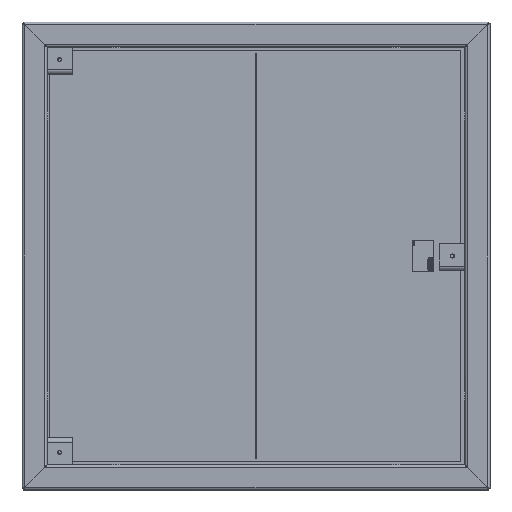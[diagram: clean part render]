
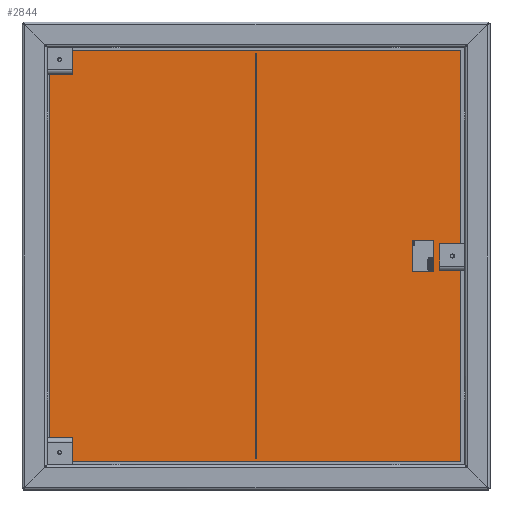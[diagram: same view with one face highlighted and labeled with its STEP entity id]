
A CAD part, front view. The second image highlights one B-rep face of the part: STEP entity #2844.
In plain terms, the highlighted planar face has unit normal (0, -1, 0).
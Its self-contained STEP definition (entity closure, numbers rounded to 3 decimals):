
#2015=DIRECTION('',(0.,0.,-1.));
#2016=VECTOR('',#2015,1086.545);
#2017=CARTESIAN_POINT('',(-543.272,-3.,543.272));
#2018=LINE('',#2017,#2016);
#2059=CARTESIAN_POINT('',(-543.272,-3.,543.272));
#2061=CARTESIAN_POINT('',(-470.,-3.,-470.));
#2062=DIRECTION('',(0.,1.,0.));
#2063=DIRECTION('',(-1.,0.,0.));
#2064=AXIS2_PLACEMENT_3D('',#2061,#2062,#2063);
#2066=CARTESIAN_POINT('',(-470.,-3.,-470.));
#2067=DIRECTION('',(0.,1.,0.));
#2068=DIRECTION('',(1.,0.,0.));
#2069=AXIS2_PLACEMENT_3D('',#2066,#2067,#2068);
#2071=CARTESIAN_POINT('',(-470.,-3.,470.));
#2072=DIRECTION('',(0.,1.,0.));
#2073=DIRECTION('',(-1.,0.,0.));
#2074=AXIS2_PLACEMENT_3D('',#2071,#2072,#2073);
#2076=CARTESIAN_POINT('',(-470.,-3.,470.));
#2077=DIRECTION('',(0.,1.,0.));
#2078=DIRECTION('',(1.,0.,0.));
#2079=AXIS2_PLACEMENT_3D('',#2076,#2077,#2078);
#2081=CARTESIAN_POINT('',(470.,-3.,0.));
#2082=DIRECTION('',(0.,1.,0.));
#2083=DIRECTION('',(-1.,0.,0.));
#2084=AXIS2_PLACEMENT_3D('',#2081,#2082,#2083);
#2086=CARTESIAN_POINT('',(470.,-3.,0.));
#2087=DIRECTION('',(0.,1.,0.));
#2088=DIRECTION('',(1.,0.,0.));
#2089=AXIS2_PLACEMENT_3D('',#2086,#2087,#2088);
#2091=DIRECTION('',(0.,0.,1.));
#2092=VECTOR('',#2091,1086.545);
#2093=CARTESIAN_POINT('',(543.272,-3.,-543.272));
#2094=LINE('',#2093,#2092);
#2145=DIRECTION('',(-1.,0.,0.));
#2146=VECTOR('',#2145,1086.545);
#2147=CARTESIAN_POINT('',(543.272,-3.,543.272));
#2148=LINE('',#2147,#2146);
#2227=DIRECTION('',(1.,0.,0.));
#2228=VECTOR('',#2227,1086.545);
#2229=CARTESIAN_POINT('',(-543.272,-3.,-543.272));
#2230=LINE('',#2229,#2228);
#2687=VERTEX_POINT('',#2059);
#2699=CARTESIAN_POINT('',(-543.272,-3.,-543.272));
#2700=VERTEX_POINT('',#2699);
#2721=CARTESIAN_POINT('',(543.272,-3.,543.272));
#2722=VERTEX_POINT('',#2721);
#2723=CARTESIAN_POINT('',(543.272,-3.,-543.272));
#2724=VERTEX_POINT('',#2723);
#2761=CARTESIAN_POINT('',(452.25,-3.,0.));
#2762=CARTESIAN_POINT('',(487.75,-3.,0.));
#2763=VERTEX_POINT('',#2761);
#2764=VERTEX_POINT('',#2762);
#2773=CARTESIAN_POINT('',(-487.75,-3.,470.));
#2774=CARTESIAN_POINT('',(-452.25,-3.,470.));
#2775=VERTEX_POINT('',#2773);
#2776=VERTEX_POINT('',#2774);
#2777=CARTESIAN_POINT('',(-487.75,-3.,-470.));
#2778=CARTESIAN_POINT('',(-452.25,-3.,-470.));
#2779=VERTEX_POINT('',#2777);
#2780=VERTEX_POINT('',#2778);
#2812=CARTESIAN_POINT('',(0.,-3.,0.));
#2813=DIRECTION('',(0.,1.,0.));
#2814=DIRECTION('',(1.,0.,0.));
#2815=AXIS2_PLACEMENT_3D('',#2812,#2813,#2814);
#2816=PLANE('',#2815);
#2818=ORIENTED_EDGE('',*,*,#2817,.F.);
#2820=ORIENTED_EDGE('',*,*,#2819,.F.);
#2821=ORIENTED_EDGE('',*,*,#2802,.F.);
#2823=ORIENTED_EDGE('',*,*,#2822,.F.);
#2824=EDGE_LOOP('',(#2818,#2820,#2821,#2823));
#2825=FACE_OUTER_BOUND('',#2824,.F.);
#2827=ORIENTED_EDGE('',*,*,#2826,.F.);
#2829=ORIENTED_EDGE('',*,*,#2828,.F.);
#2830=EDGE_LOOP('',(#2827,#2829));
#2831=FACE_BOUND('',#2830,.F.);
#2833=ORIENTED_EDGE('',*,*,#2832,.F.);
#2835=ORIENTED_EDGE('',*,*,#2834,.F.);
#2836=EDGE_LOOP('',(#2833,#2835));
#2837=FACE_BOUND('',#2836,.F.);
#2839=ORIENTED_EDGE('',*,*,#2838,.F.);
#2841=ORIENTED_EDGE('',*,*,#2840,.F.);
#2842=EDGE_LOOP('',(#2839,#2841));
#2843=FACE_BOUND('',#2842,.F.);
#2065=CIRCLE('',#2064,17.75);
#2070=CIRCLE('',#2069,17.75);
#2075=CIRCLE('',#2074,17.75);
#2080=CIRCLE('',#2079,17.75);
#2085=CIRCLE('',#2084,17.75);
#2090=CIRCLE('',#2089,17.75);
#2802=EDGE_CURVE('',#2687,#2700,#2018,.T.);
#2817=EDGE_CURVE('',#2724,#2722,#2094,.T.);
#2819=EDGE_CURVE('',#2700,#2724,#2230,.T.);
#2822=EDGE_CURVE('',#2722,#2687,#2148,.T.);
#2826=EDGE_CURVE('',#2779,#2780,#2065,.T.);
#2828=EDGE_CURVE('',#2780,#2779,#2070,.T.);
#2832=EDGE_CURVE('',#2775,#2776,#2075,.T.);
#2834=EDGE_CURVE('',#2776,#2775,#2080,.T.);
#2838=EDGE_CURVE('',#2763,#2764,#2085,.T.);
#2840=EDGE_CURVE('',#2764,#2763,#2090,.T.);
#2844=ADVANCED_FACE('',(#2825,#2831,#2837,#2843),#2816,.F.);
